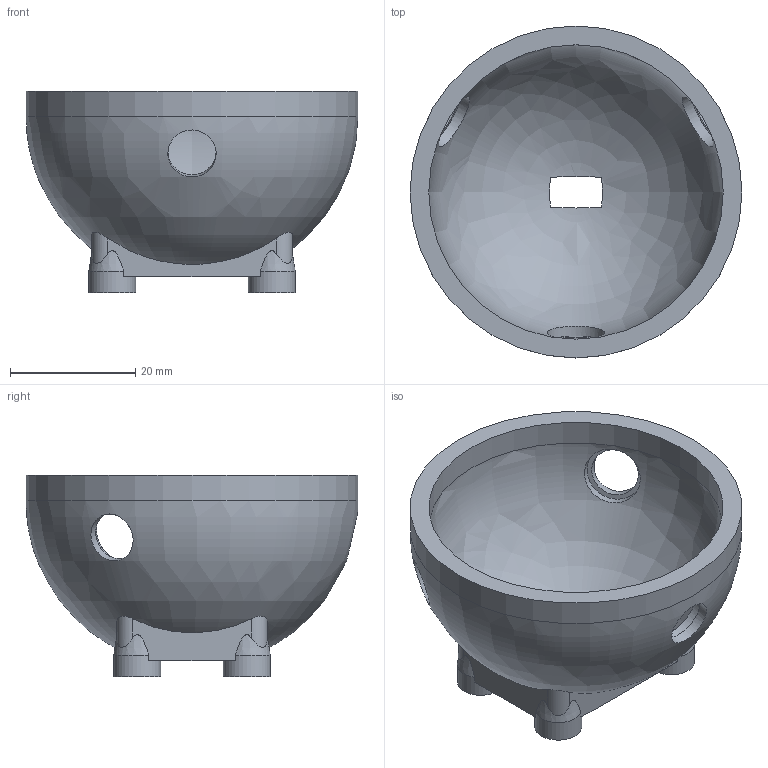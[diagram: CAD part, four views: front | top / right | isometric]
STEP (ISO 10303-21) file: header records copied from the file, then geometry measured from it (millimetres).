
FILE_DESCRIPTION(('Open CASCADE Model'),'2;1');
FILE_NAME('Open CASCADE Shape Model','2026-05-31T19:43:41',('Author'),( 'Open CASCADE'),'Open CASCADE STEP processor 7.6','Open CASCADE 7.6' ,'Unknown');
FILE_SCHEMA(('AP242_MANAGED_MODEL_BASED_3D_ENGINEERING_MIM_LF. {1 0 10303 442 1 1 4 }'));
Length unit declared in the file: millimetre
Products named in the file (1): Open CASCADE STEP translator 7.6 8
Bounding box: 53 x 53 x 32.1 mm (x, y, z)
Volume: 14559.9 mm3; surface area: 10504.3 mm2
Topology: 1 solids, 1 shells, 56 faces, 138 edges, 92 vertices
Faces by surface type: cylinder 24, plane 22, bspline 4, cone 4, revolution 2
Full cylindrical faces by diameter (mm): 3.5 x4, 7.5 x4, 7.7 x3, 9.2 x3, 47 x1, 53 x1
Entity records: 7717 total; most frequent: CARTESIAN_POINT 5010, DIRECTION 474, ORIENTED_EDGE 276, PCURVE 276, DEFINITIONAL_REPRESENTATION 276, LINE 230, VECTOR 230, EDGE_CURVE 138
